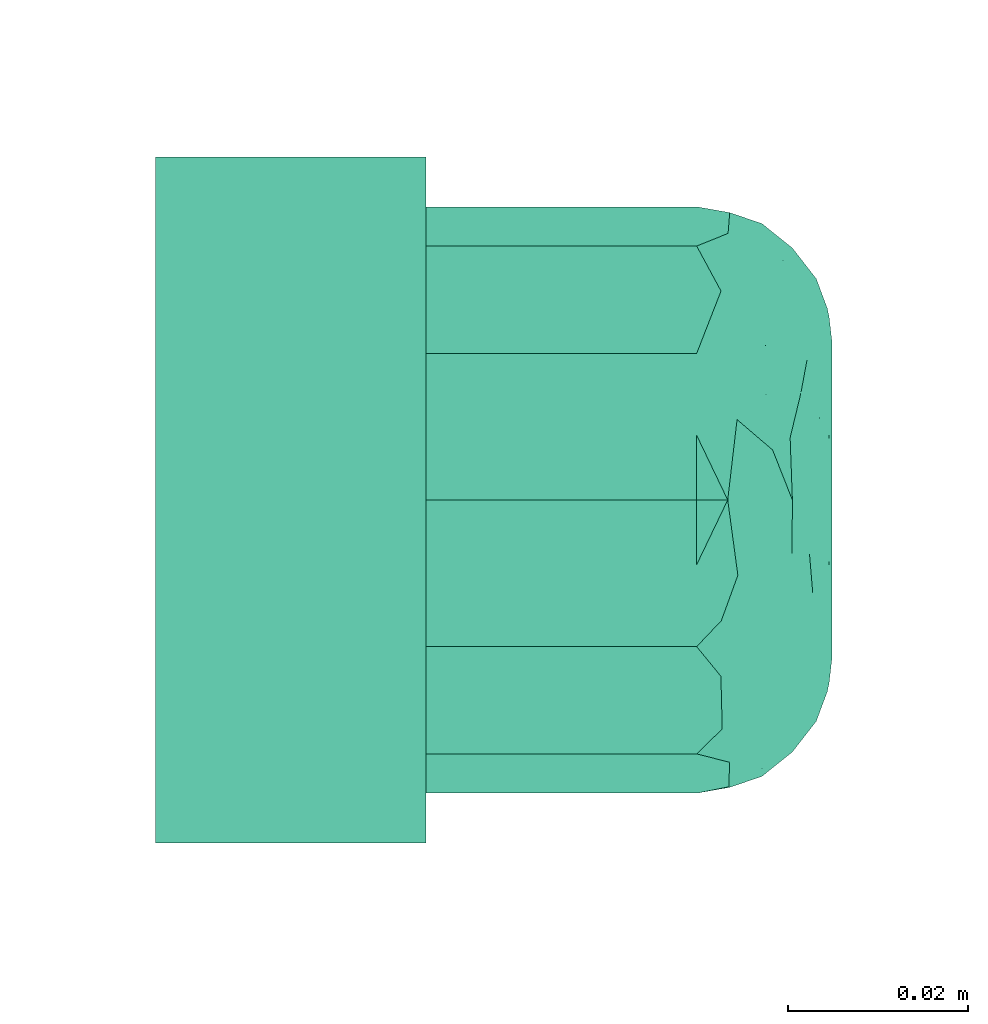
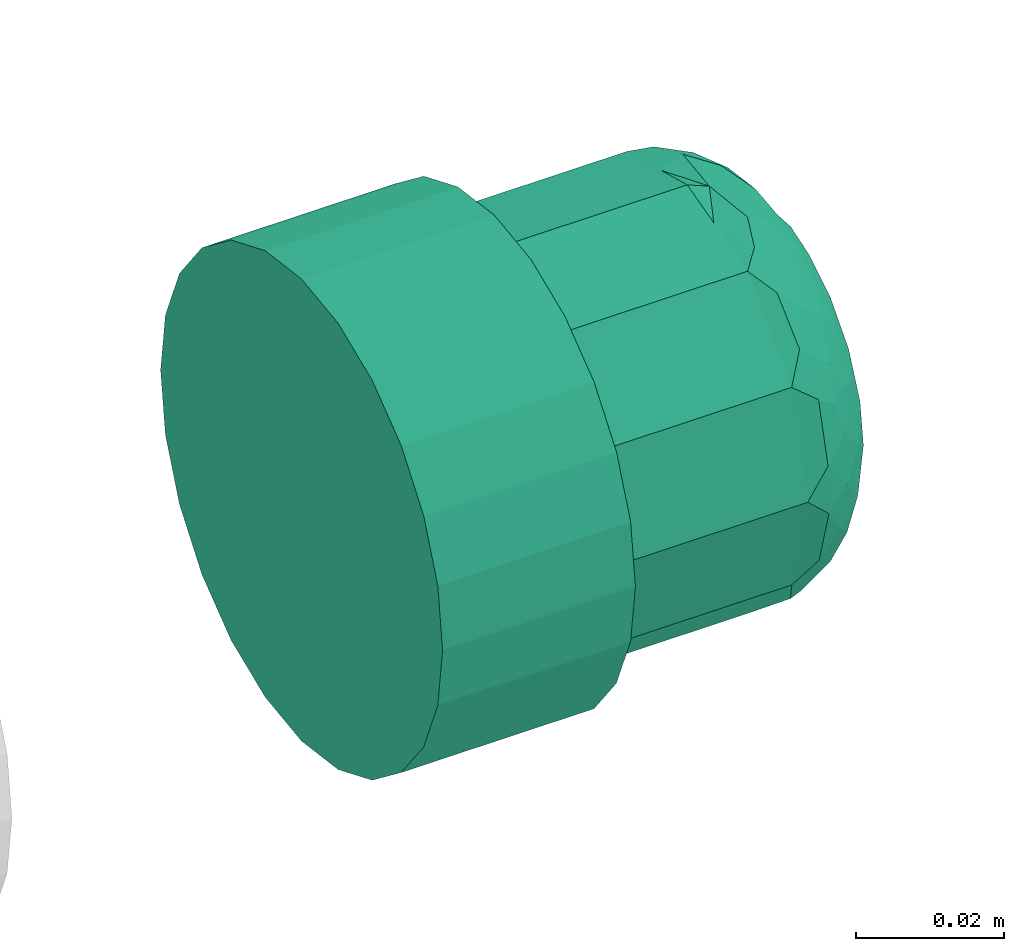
# One storey, part 41 of 146: 1 distribution control element.
"""IFC2X3 building model written with IfcOpenShell, lengths in metres."""

from ifc_helpers import new_model, entity, si_unit, converted_unit, derived_unit, direction, frame, origin, place, context, subcontext, project, spatial, faceted_brep, source, transform, mapped, material, type_object, type_shapes, element, save


model = new_model("IFC2X3")

# Units and contexts
model_context = context("Model", 3, precision=1e-05, world=origin(), true_north=direction((6.12303176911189e-17, 1.0)))
body_context = subcontext(model_context, "Body", "Model", "MODEL_VIEW")
ifc_project = project(units=[si_unit("LENGTHUNIT", "METRE"), si_unit("AREAUNIT", "SQUARE_METRE"), si_unit("VOLUMEUNIT", "CUBIC_METRE"), converted_unit("PLANEANGLEUNIT", "DEGREE", entity("IfcRatioMeasure", 0.0174532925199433), si_unit("PLANEANGLEUNIT", "RADIAN"), dimensions=[0, 0, 0, 0, 0, 0, 0]), si_unit("MASSUNIT", "GRAM", prefix="KILO"), derived_unit("MASSDENSITYUNIT", [(si_unit("MASSUNIT", "GRAM", prefix="KILO"), 1), (si_unit("LENGTHUNIT", "METRE"), -3)]), si_unit("TIMEUNIT", "SECOND"), si_unit("FREQUENCYUNIT", "HERTZ"), si_unit("THERMODYNAMICTEMPERATUREUNIT", "DEGREE_CELSIUS"), derived_unit("THERMALTRANSMITTANCEUNIT", [(si_unit("MASSUNIT", "GRAM", prefix="KILO"), 1), (si_unit("THERMODYNAMICTEMPERATUREUNIT", "KELVIN"), -1), (si_unit("TIMEUNIT", "SECOND"), -3)]), derived_unit("VOLUMETRICFLOWRATEUNIT", [(si_unit("LENGTHUNIT", "METRE"), 3), (si_unit("TIMEUNIT", "SECOND"), -1)]), si_unit("ELECTRICCURRENTUNIT", "AMPERE"), si_unit("ELECTRICVOLTAGEUNIT", "VOLT"), si_unit("POWERUNIT", "WATT"), si_unit("FORCEUNIT", "NEWTON"), si_unit("ILLUMINANCEUNIT", "LUX"), si_unit("LUMINOUSFLUXUNIT", "LUMEN"), si_unit("LUMINOUSINTENSITYUNIT", "CANDELA"), derived_unit("USERDEFINED", [(si_unit("MASSUNIT", "GRAM", prefix="KILO"), -1), (si_unit("LENGTHUNIT", "METRE"), -2), (si_unit("TIMEUNIT", "SECOND"), 3), (si_unit("LUMINOUSFLUXUNIT", "LUMEN"), 1)]), derived_unit("LINEARVELOCITYUNIT", [(si_unit("LENGTHUNIT", "METRE"), 1), (si_unit("TIMEUNIT", "SECOND"), -1)]), si_unit("PRESSUREUNIT", "PASCAL"), derived_unit("USERDEFINED", [(si_unit("LENGTHUNIT", "METRE"), -2), (si_unit("MASSUNIT", "GRAM", prefix="KILO"), 1), (si_unit("TIMEUNIT", "SECOND"), -2)])], contexts=[model_context])

# Site, building, storey
site_placement = place(None, origin())
site = spatial("IfcSite", under=ifc_project, at=site_placement, Name="Default", CompositionType="ELEMENT")
building_placement = place(site_placement, origin())
building = spatial("IfcBuilding", under=site, at=building_placement, CompositionType="ELEMENT")
storey_placement = place(building_placement, origin())
storey = spatial("IfcBuildingStorey", under=building, at=storey_placement, Name="S01", CompositionType="ELEMENT", Elevation=0.0)

# Distribution control element
ifc_material = material(Name="Red plastic")
alarm_type = type_object("IfcAlarmType", Name="Incendie_Flash", PredefinedType="NOTDEFINED", material=ifc_material)
shared_shape = source(origin(), body_context, "Body", "Brep", [
    faceted_brep([(0.00983512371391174, -0.0367051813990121, 0.0299999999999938), (0.0190000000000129, -0.0329089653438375, 0.0299999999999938), (0.0268700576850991, -0.0268700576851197, 0.0299999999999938), (0.0329089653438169, -0.0190000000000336, 0.0299999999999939), (0.0367051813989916, -0.00983512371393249, 0.029999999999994), (0.0380000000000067, 0.0, 0.0299999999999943), (0.0367051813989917, 0.0098351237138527, 0.0299999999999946), (0.0329089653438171, 0.0189999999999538, 0.0299999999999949), (0.0268700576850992, 0.02687005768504, 0.0299999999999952), (0.0190000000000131, 0.0329089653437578, 0.0299999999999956), (0.00983512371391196, 0.0367051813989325, 0.0299999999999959), (0.0, 0.0379999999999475, 0.0299999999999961), (-0.00983512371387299, 0.0367051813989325, 0.0299999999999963), (-0.0189999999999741, 0.0329089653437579, 0.0299999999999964), (-0.0268700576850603, 0.0268700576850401, 0.0299999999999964), (-0.0329089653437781, 0.0189999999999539, 0.0299999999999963), (-0.0367051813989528, 0.0098351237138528, 0.0299999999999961), (-0.0379999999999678, 0.0, 0.0299999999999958), (-0.0367051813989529, -0.00983512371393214, 0.0299999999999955), (-0.0329089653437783, -0.0190000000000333, 0.0299999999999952), (-0.0268700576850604, -0.0268700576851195, 0.0299999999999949), (-0.0189999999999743, -0.0329089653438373, 0.0299999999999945), (-0.0098351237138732, -0.036705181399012, 0.0299999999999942), (0.0, -0.038000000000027, 0.029999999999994), (0.0367051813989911, 0.00983512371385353, 0.0), (0.038000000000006, 0.0, 0.0), (0.036705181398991, -0.00983512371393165, 0.0), (0.0329089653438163, -0.0190000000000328, 0.0), (0.0268700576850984, -0.0268700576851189, 0.0), (0.0190000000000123, -0.0329089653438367, 0.0), (0.00983512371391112, -0.0367051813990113, 0.0), (0.0, -0.0380000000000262, 0.0), (-0.00983512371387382, -0.0367051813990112, 0.0), (-0.0189999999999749, -0.0329089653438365, 0.0), (-0.0268700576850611, -0.0268700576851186, 0.0), (-0.0329089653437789, -0.0190000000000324, 0.0), (-0.0367051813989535, -0.00983512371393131, 0.0), (-0.0379999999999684, 0.0, 0.0), (-0.0367051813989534, 0.00983512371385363, 0.0), (-0.0329089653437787, 0.0189999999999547, 0.0), (-0.0268700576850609, 0.0268700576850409, 0.0), (-0.0189999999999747, 0.0329089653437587, 0.0), (-0.00983512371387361, 0.0367051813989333, 0.0), (0.0, 0.0379999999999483, 0.0), (0.00983512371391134, 0.0367051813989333, 0.0), (0.0190000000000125, 0.0329089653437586, 0.0), (0.0268700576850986, 0.0268700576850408, 0.0), (0.0329089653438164, 0.0189999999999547, 0.0)], [[[0, 1, 2, 3, 4, 5, 6, 7, 8, 9, 10, 11, 12, 13, 14, 15, 16, 17, 18, 19, 20, 21, 22, 23]], [[24, 25, 26, 27, 28, 29, 30, 31, 32, 33, 34, 35, 36, 37, 38, 39, 40, 41, 42, 43, 44, 45, 46, 47]], [[36, 18, 17, 37]], [[35, 19, 18, 36]], [[21, 20, 34, 33]], [[35, 34, 20, 19]], [[22, 21, 33, 32]], [[23, 22, 32, 31]], [[30, 0, 23, 31]], [[29, 1, 0, 30]], [[29, 28, 2, 1]], [[28, 27, 3, 2]], [[26, 4, 3, 27]], [[26, 25, 5, 4]], [[24, 6, 5, 25]], [[47, 7, 6, 24]], [[9, 8, 46, 45]], [[47, 46, 8, 7]], [[10, 9, 45, 44]], [[11, 10, 44, 43]], [[43, 42, 12, 11]], [[15, 39, 38, 16]], [[40, 39, 15, 14]], [[16, 38, 37, 17]], [[12, 42, 41, 13]], [[41, 40, 14, 13]]]),
    faceted_brep([(0.0, 0.0310753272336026, 0.0634394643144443), (-0.00716197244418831, 0.0305809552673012, 0.0600000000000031), (-0.00833767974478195, 0.0306762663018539, 0.0645629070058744), (-0.0318494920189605, -0.00354130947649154, 0.063663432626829), (-0.0306323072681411, -0.000670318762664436, 0.0672353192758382), (-0.0317848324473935, 0.0042753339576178, 0.0635614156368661), (-0.0227868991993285, -0.00668807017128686, 0.0736367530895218), (-0.0182577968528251, -0.00974892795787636, 0.0746552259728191), (-0.0202727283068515, -0.00358393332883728, 0.074678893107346), (-0.016385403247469, 0.0254148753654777, 0.0679194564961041), (-0.021187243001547, 0.0212245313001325, 0.0683071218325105), (-0.0167767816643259, 0.0227822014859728, 0.0704169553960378), (-0.0200936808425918, -0.0121748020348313, 0.0737502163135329), (-0.00857849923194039, 0.0288841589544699, 0.0680903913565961), (-0.00590296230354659, 0.0275227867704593, 0.0705643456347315), (0.0, 0.0281066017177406, 0.070606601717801), (-0.0253054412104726, 0.0115121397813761, 0.0709036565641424), (-0.0298000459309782, 0.0070831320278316, 0.0672523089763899), (-0.0279333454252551, 0.00316972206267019, 0.0706005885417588), (-0.0142535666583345, 0.0145433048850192, 0.0747241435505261), (-0.00714839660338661, 0.0193281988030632, 0.0746745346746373), (-0.0140812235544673, 0.0176795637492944, 0.0741056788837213), (-0.0187772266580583, 0.0101036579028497, 0.0745046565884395), (-0.0207236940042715, 0.0135056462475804, 0.0731392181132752), (-0.0212676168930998, 0.0232237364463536, 0.0654097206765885), (-0.0253709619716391, 0.0198772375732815, 0.0628318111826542), (-0.0260097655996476, 0.0163827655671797, 0.0670513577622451), (-0.0273833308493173, -0.00573701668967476, 0.0707338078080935), (-0.0245225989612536, -8.80194780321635e-05, 0.0732544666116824), (-0.0290659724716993, 0.0135031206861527, 0.0636489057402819), (-0.0303229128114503, 0.00812499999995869, 0.0600000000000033), (-0.0265039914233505, -0.0119036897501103, 0.0695653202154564), (-0.0207033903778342, -0.0187904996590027, 0.0707520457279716), (-0.0231315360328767, -0.0125689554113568, 0.0721287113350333), (-0.00891676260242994, -0.0305418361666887, 0.064475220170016), (-0.0162499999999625, -0.0281458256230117, 0.0600000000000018), (-0.00812499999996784, -0.0303229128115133, 0.0600000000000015), (-0.00716197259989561, -0.0305809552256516, 0.0600000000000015), (-0.0104492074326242, 0.0229229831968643, 0.0728774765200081), (-0.0115458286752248, 0.0257177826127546, 0.0705219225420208), (0.0, -0.0228033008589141, 0.0728033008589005), (-0.00912165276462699, -0.0220231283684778, 0.0735954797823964), (-0.0118384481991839, -0.0243524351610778, 0.0715443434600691), (-0.0295480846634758, -0.0125213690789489, 0.0634761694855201), (-0.0297777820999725, -0.00830917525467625, 0.066710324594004), (-0.0212284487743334, -0.0212045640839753, 0.0682845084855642), (-0.0258588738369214, -0.0163601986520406, 0.0673075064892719), (-0.0171631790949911, -0.0251277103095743, 0.0676038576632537), (-0.0237895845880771, 0.00671046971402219, 0.0731492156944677), (-0.0212013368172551, 0.00276607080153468, 0.0744892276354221), (-0.0149371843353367, 0.00618718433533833, 0.0750000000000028), (-0.0207033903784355, 0.0187905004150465, 0.0707520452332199), (-0.0303229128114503, -0.00812500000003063, 0.0600000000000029), (-0.0155298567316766, -0.0142338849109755, 0.0745699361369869), (0.0, 0.0296506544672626, 0.0668789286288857), (0.0, -0.0281066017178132, 0.0706066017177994), (0.0, -0.0254549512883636, 0.0717049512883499), (-0.00689181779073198, -0.0275012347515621, 0.0703557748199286), (-0.0140812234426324, -0.0176795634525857, 0.0741056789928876), (-0.00714839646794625, -0.0193281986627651, 0.0746745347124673), (-0.00618718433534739, -0.0149371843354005, 0.0750000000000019), (0.0, 0.0228033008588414, 0.0728033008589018), (-0.0062193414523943, 0.024999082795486, 0.0725201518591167), (-0.0162499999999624, 0.0281458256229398, 0.0600000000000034), (-0.0221979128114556, 0.0221979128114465, 0.0600000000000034), (-0.0195368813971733, 0.0256689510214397, 0.0626830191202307), (-0.0150650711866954, 0.0277296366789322, 0.0652326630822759), (0.0, 0.0324999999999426, 0.0600000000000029), (-0.0133801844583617, 0.0293432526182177, 0.0627277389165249), (-0.00812499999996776, 0.0303229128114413, 0.0600000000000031), (-0.0281458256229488, 0.0162499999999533, 0.0600000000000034), (-0.0288189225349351, 0.0118325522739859, 0.0662114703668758), (-0.026864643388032, 0.0126649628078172, 0.0687264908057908), (-0.0324999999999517, 0.0, 0.0600000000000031), (-0.0281458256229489, -0.0162500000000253, 0.0600000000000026), (-0.0123743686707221, -0.0123743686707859, 0.0750000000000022), (-0.0149371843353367, -0.00618718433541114, 0.0750000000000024), (-0.0261755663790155, -0.0186043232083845, 0.0633828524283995), (-0.0231574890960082, -0.022453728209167, 0.0626954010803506), (-0.0215965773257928, -0.0229734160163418, 0.0653044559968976), (-0.0116849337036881, -0.028048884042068, 0.0676788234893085), (-0.0161946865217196, -0.027510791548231, 0.0641184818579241), (-0.005544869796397, -0.029399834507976, 0.0684136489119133), (0.0, -0.0201516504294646, 0.0739016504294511), (-0.0221979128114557, -0.0221979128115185, 0.0600000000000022), (-0.0160989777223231, 0.0197228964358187, 0.0727142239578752), (0.0, 0.0201516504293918, 0.0739016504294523), (0.0, 0.0174999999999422, 0.0750000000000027), (-0.00618718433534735, 0.0149371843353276, 0.0750000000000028), (-0.018783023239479, -0.0171862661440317, 0.072714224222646), (-0.0123743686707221, 0.0123743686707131, 0.075000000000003), (-0.0174999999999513, 0.0, 0.0750000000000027), (0.0, -0.0310753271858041, 0.0634394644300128), (0.0, -0.0296506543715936, 0.0668789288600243), (0.0, -0.0325000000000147, 0.0600000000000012), (-0.0154632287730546, -0.0211512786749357, 0.0722185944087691), (0.0, -0.0175000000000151, 0.0750000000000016), (0.0, 0.025454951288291, 0.0717049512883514), (0.0071619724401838, -0.0305809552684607, 0.060000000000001), (0.0083376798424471, -0.030676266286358, 0.0645629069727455), (0.0207033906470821, -0.0187905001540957, 0.0707520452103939), (0.0253054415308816, -0.0115121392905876, 0.0709036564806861), (0.020723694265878, -0.0135056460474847, 0.0731392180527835), (0.0115458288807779, -0.0257177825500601, 0.0705219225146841), (0.00590296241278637, -0.0275227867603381, 0.0705643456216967), (0.00857849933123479, -0.0288841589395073, 0.0680903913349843), (0.0163854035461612, -0.0254148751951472, 0.0679194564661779), (0.0211872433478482, -0.0212245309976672, 0.0683071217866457), (0.016776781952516, -0.0227822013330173, 0.0704169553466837), (0.0290659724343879, -0.0135031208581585, 0.0636489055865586), (0.0303229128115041, -0.0081250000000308, 0.0600000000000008), (0.0317848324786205, -0.0042753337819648, 0.0635614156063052), (0.0265039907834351, 0.0119036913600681, 0.0695653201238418), (0.0207033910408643, 0.0187904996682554, 0.0707520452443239), (0.0231315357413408, 0.0125689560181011, 0.0721287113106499), (0.0142535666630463, -0.0145433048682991, 0.074724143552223), (0.00714839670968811, -0.0193281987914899, 0.074674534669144), (0.0140812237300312, -0.0176795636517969, 0.0741056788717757), (0.0187772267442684, -0.01010365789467, 0.0745046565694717), (0.023789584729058, -0.0067104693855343, 0.0731492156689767), (0.0279333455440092, -0.00316972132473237, 0.070600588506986), (0.024522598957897, 8.80198207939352e-05, 0.0732544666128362), (0.027383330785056, 0.00573701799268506, 0.070733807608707), (0.0227868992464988, 0.00668807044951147, 0.0736367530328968), (0.0104492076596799, -0.0229229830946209, 0.0728774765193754), (0.0297777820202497, 0.00830917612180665, 0.0667103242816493), (0.0318494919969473, 0.0035413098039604, 0.0636634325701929), (0.0295480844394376, 0.0125213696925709, 0.0634761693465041), (0.0303229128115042, 0.00812499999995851, 0.0600000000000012), (0.0200936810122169, 0.0121748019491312, 0.073750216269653), (0.0182577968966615, 0.00974892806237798, 0.074655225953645), (0.0118384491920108, 0.0243524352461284, 0.0715443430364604), (0.0212284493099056, 0.0212045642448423, 0.0682845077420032), (0.0171631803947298, 0.0251277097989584, 0.0676038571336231), (0.020272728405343, 0.00358393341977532, 0.0746788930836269), (0.00912165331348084, 0.0220231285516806, 0.073595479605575), (0.0306323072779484, 0.00067031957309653, 0.0672353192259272), (0.02585887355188, 0.0163601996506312, 0.0673075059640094), (0.00891676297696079, 0.030541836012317, 0.0644752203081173), (0.0162500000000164, 0.0281458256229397, 0.0600000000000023), (0.0081250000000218, 0.0303229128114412, 0.0600000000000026), (0.00716197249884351, 0.0305809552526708, 0.0600000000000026), (0.0212676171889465, -0.0232237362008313, 0.0654097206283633), (0.0253709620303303, -0.0198772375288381, 0.0628318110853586), (0.0260097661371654, -0.0163827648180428, 0.0670513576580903), (0.0298000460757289, -0.00708313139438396, 0.0672523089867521), (0.0212013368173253, -0.00276607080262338, 0.0744892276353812), (0.0149371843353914, -0.00618718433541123, 0.0750000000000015), (0.0155298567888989, 0.0142338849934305, 0.0745699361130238), (0.00689181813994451, 0.0275012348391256, 0.0703557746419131), (0.014081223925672, 0.0176795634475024, 0.0741056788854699), (0.00714839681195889, 0.0193281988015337, 0.0746745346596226), (0.00618718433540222, 0.0149371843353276, 0.0750000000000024), (0.00621934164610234, -0.0249990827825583, 0.0725201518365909), (0.0162500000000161, -0.0281458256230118, 0.0600000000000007), (0.0221979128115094, -0.0221979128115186, 0.0600000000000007), (0.0195368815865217, -0.0256689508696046, 0.0626830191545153), (0.0150650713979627, -0.0277296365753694, 0.0652326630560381), (0.0133801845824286, -0.0293432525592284, 0.0627277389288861), (0.00812500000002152, -0.0303229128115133, 0.060000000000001), (0.0281458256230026, -0.0162500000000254, 0.0600000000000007), (0.0288189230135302, -0.0118325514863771, 0.0662114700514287), (0.0268646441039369, -0.0126649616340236, 0.0687264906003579), (0.0325000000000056, 0.0, 0.060000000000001), (0.0281458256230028, 0.0162499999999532, 0.0600000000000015), (0.0123743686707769, 0.012374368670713, 0.0750000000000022), (0.0149371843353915, 0.00618718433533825, 0.0750000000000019), (0.0261755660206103, 0.0186043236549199, 0.0633828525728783), (0.0231574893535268, 0.0224537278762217, 0.0626954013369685), (0.0215965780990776, 0.0229734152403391, 0.06530445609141), (0.0116849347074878, 0.0280488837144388, 0.0676788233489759), (0.0161946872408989, 0.027510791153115, 0.0641184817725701), (0.00554487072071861, 0.0293998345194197, 0.0684136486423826), (0.0221979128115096, 0.0221979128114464, 0.0600000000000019), (0.0160989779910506, -0.0197228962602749, 0.0727142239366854), (0.00618718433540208, -0.0149371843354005, 0.0750000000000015), (0.0187830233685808, 0.0171862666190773, 0.072714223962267), (0.0123743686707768, -0.012374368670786, 0.0750000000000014), (0.017500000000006, 0.0, 0.0750000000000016), (0.0154632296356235, 0.021151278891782, 0.0722185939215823), (0.0, 0.0, 0.0750000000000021), (0.0, 0.0, 0.0300000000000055), (0.0, -0.0325000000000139, 0.0300000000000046), (-0.0089852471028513, -0.0300924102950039, 0.0300000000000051), (-0.0162499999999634, -0.028145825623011, 0.0300000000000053), (-0.0221979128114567, -0.0221979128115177, 0.0300000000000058), (-0.0281458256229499, -0.0162500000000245, 0.030000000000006), (-0.0303229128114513, -0.00812500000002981, 0.0300000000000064), (-0.0324999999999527, 0.0, 0.0300000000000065), (-0.0303229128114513, 0.00812499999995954, 0.0300000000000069), (-0.0281458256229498, 0.0162499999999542, 0.0300000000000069), (-0.0221979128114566, 0.0221979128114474, 0.030000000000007), (-0.0162499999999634, 0.0281458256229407, 0.0300000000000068), (-0.00812499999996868, 0.0303229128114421, 0.0300000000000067), (0.0, 0.0324999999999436, 0.0300000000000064), (0.00898524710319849, 0.0300924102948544, 0.0300000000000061), (0.00812500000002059, -0.0303229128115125, 0.0300000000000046), (0.0162500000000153, -0.0281458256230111, 0.0300000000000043), (0.0221979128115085, -0.0221979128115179, 0.0300000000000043), (0.0281458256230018, -0.0162500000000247, 0.0300000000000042), (0.0303229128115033, -0.00812500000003, 0.0300000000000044), (0.0325000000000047, 0.0, 0.0300000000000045), (0.0162500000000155, 0.0281458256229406, 0.0300000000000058), (0.0221979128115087, 0.0221979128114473, 0.0300000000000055), (0.0281458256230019, 0.016249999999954, 0.0300000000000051), (0.0303229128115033, 0.00812499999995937, 0.0300000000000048)], [[[0, 1, 2]], [[3, 4, 5]], [[6, 7, 8]], [[9, 10, 11]], [[12, 7, 6]], [[13, 14, 15]], [[16, 17, 18]], [[19, 20, 21]], [[22, 19, 23]], [[24, 25, 26]], [[27, 6, 28]], [[17, 5, 4]], [[29, 30, 5]], [[31, 32, 33]], [[34, 35, 36, 37]], [[38, 39, 11]], [[40, 41, 42]], [[43, 44, 3]], [[27, 33, 6]], [[45, 32, 46]], [[45, 47, 42]], [[48, 18, 28]], [[14, 13, 39]], [[49, 50, 22]], [[51, 16, 23]], [[43, 3, 52]], [[20, 38, 21]], [[53, 7, 12]], [[15, 54, 13]], [[55, 56, 57]], [[58, 59, 60]], [[61, 62, 38]], [[63, 64, 65]], [[65, 25, 24]], [[66, 13, 2]], [[54, 2, 13]], [[13, 66, 9]], [[66, 65, 24]], [[54, 0, 2]], [[0, 67, 1]], [[68, 1, 69, 63]], [[68, 66, 2]], [[9, 66, 24]], [[26, 25, 29]], [[25, 64, 70]], [[26, 51, 10]], [[29, 25, 70]], [[26, 71, 72]], [[30, 73, 5]], [[71, 26, 29]], [[29, 70, 30]], [[3, 5, 73]], [[5, 17, 71]], [[74, 43, 52]], [[3, 44, 4]], [[3, 73, 52]], [[27, 4, 44]], [[18, 17, 4]], [[44, 46, 31]], [[7, 75, 76]], [[27, 18, 4]], [[16, 18, 48]], [[23, 16, 48]], [[51, 26, 72]], [[77, 43, 74]], [[44, 43, 46]], [[77, 78, 79]], [[80, 81, 34]], [[77, 46, 43]], [[45, 46, 79]], [[55, 57, 82]], [[59, 41, 83]], [[47, 81, 80]], [[81, 78, 35]], [[46, 77, 79]], [[74, 84, 35, 78]], [[10, 9, 24]], [[13, 9, 39]], [[26, 10, 24]], [[11, 10, 51]], [[38, 85, 21]], [[9, 11, 39]], [[85, 11, 51]], [[38, 20, 86]], [[86, 20, 87]], [[86, 61, 38]], [[31, 33, 27]], [[19, 88, 20]], [[88, 87, 20]], [[89, 33, 32]], [[22, 23, 48]], [[23, 21, 85]], [[22, 48, 49]], [[19, 22, 90]], [[28, 49, 48]], [[6, 8, 28]], [[50, 49, 91]], [[50, 90, 22]], [[27, 28, 18]], [[8, 7, 76]], [[49, 8, 91]], [[6, 33, 12]], [[91, 8, 76]], [[8, 49, 28]], [[89, 12, 33]], [[53, 12, 58]], [[58, 60, 53]], [[75, 7, 53]], [[92, 93, 34]], [[75, 53, 60]], [[93, 82, 34]], [[37, 94, 92]], [[37, 92, 34]], [[81, 79, 78]], [[35, 34, 81]], [[44, 31, 27]], [[32, 31, 46]], [[65, 66, 68]], [[25, 65, 64]], [[32, 95, 89]], [[56, 40, 42]], [[57, 80, 82]], [[56, 42, 57]], [[42, 80, 57]], [[34, 82, 80]], [[55, 82, 93]], [[41, 40, 83]], [[83, 96, 59]], [[58, 89, 95]], [[60, 59, 96]], [[41, 59, 58]], [[62, 61, 97]], [[97, 15, 14]], [[62, 14, 39]], [[14, 62, 97]], [[39, 38, 62]], [[1, 68, 2]], [[65, 68, 63]], [[5, 71, 29]], [[72, 17, 16]], [[17, 72, 71]], [[51, 72, 16]], [[47, 45, 79]], [[42, 32, 45]], [[81, 47, 79]], [[42, 47, 80]], [[74, 78, 77]], [[11, 85, 38]], [[23, 85, 51]], [[32, 42, 95]], [[12, 89, 58]], [[42, 41, 95]], [[58, 95, 41]], [[88, 19, 90]], [[23, 19, 21]], [[92, 98, 99]], [[100, 101, 102]], [[103, 104, 105]], [[106, 107, 108]], [[109, 110, 111]], [[55, 105, 104]], [[112, 113, 114]], [[115, 116, 117]], [[118, 115, 102]], [[119, 120, 121]], [[122, 123, 121]], [[124, 103, 108]], [[125, 126, 127]], [[127, 126, 128]], [[129, 130, 123]], [[131, 132, 133]], [[123, 130, 134]], [[61, 135, 131]], [[126, 136, 111]], [[132, 113, 137]], [[138, 139, 140, 141]], [[142, 143, 144]], [[145, 111, 136]], [[146, 147, 118]], [[122, 114, 123]], [[101, 145, 120]], [[116, 124, 117]], [[148, 130, 129]], [[55, 93, 105]], [[15, 97, 149]], [[150, 151, 152]], [[40, 153, 124]], [[154, 155, 156]], [[156, 143, 142]], [[157, 105, 99]], [[93, 99, 105]], [[105, 157, 106]], [[157, 156, 142]], [[93, 92, 99]], [[92, 94, 98]], [[158, 98, 159, 154]], [[158, 157, 99]], [[106, 157, 142]], [[144, 143, 109]], [[143, 155, 160]], [[144, 100, 107]], [[109, 143, 160]], [[144, 161, 162]], [[110, 163, 111]], [[161, 144, 109]], [[109, 160, 110]], [[126, 111, 163]], [[111, 145, 161]], [[164, 127, 128]], [[126, 125, 136]], [[126, 163, 128]], [[122, 136, 125]], [[120, 145, 136]], [[125, 137, 112]], [[130, 165, 166]], [[122, 120, 136]], [[101, 120, 119]], [[102, 101, 119]], [[100, 144, 162]], [[167, 127, 164]], [[125, 127, 137]], [[167, 168, 169]], [[170, 171, 138]], [[167, 137, 127]], [[132, 137, 169]], [[15, 149, 172]], [[151, 135, 86]], [[133, 171, 170]], [[171, 168, 139]], [[137, 167, 169]], [[164, 173, 139, 168]], [[107, 106, 142]], [[105, 106, 103]], [[144, 107, 142]], [[108, 107, 100]], [[124, 174, 117]], [[106, 108, 103]], [[174, 108, 100]], [[124, 116, 83]], [[83, 116, 96]], [[83, 40, 124]], [[112, 114, 122]], [[115, 175, 116]], [[175, 96, 116]], [[176, 114, 113]], [[118, 102, 119]], [[102, 117, 174]], [[118, 119, 146]], [[115, 118, 177]], [[121, 146, 119]], [[123, 134, 121]], [[147, 146, 178]], [[147, 177, 118]], [[122, 121, 120]], [[134, 130, 166]], [[146, 134, 178]], [[123, 114, 129]], [[178, 134, 166]], [[134, 146, 121]], [[176, 129, 114]], [[148, 129, 150]], [[150, 152, 148]], [[165, 130, 148]], [[0, 54, 138]], [[165, 148, 152]], [[54, 172, 138]], [[141, 67, 0]], [[141, 0, 138]], [[171, 169, 168]], [[139, 138, 171]], [[125, 112, 122]], [[113, 112, 137]], [[156, 157, 158]], [[143, 156, 155]], [[113, 179, 176]], [[97, 61, 131]], [[149, 170, 172]], [[97, 131, 149]], [[131, 170, 149]], [[138, 172, 170]], [[15, 172, 54]], [[135, 61, 86]], [[86, 87, 151]], [[150, 176, 179]], [[152, 151, 87]], [[135, 151, 150]], [[153, 40, 56]], [[104, 103, 153]], [[56, 55, 104]], [[104, 153, 56]], [[103, 124, 153]], [[98, 158, 99]], [[156, 158, 154]], [[111, 161, 109]], [[162, 145, 101]], [[145, 162, 161]], [[100, 162, 101]], [[133, 132, 169]], [[131, 113, 132]], [[171, 133, 169]], [[131, 133, 170]], [[164, 168, 167]], [[108, 174, 124]], [[102, 174, 100]], [[113, 131, 179]], [[129, 176, 150]], [[131, 135, 179]], [[150, 179, 135]], [[175, 115, 177]], [[102, 115, 117]], [[180, 91, 76]], [[180, 76, 75]], [[180, 75, 60]], [[180, 60, 96]], [[180, 96, 175]], [[180, 50, 91]], [[180, 90, 50]], [[180, 88, 90]], [[180, 87, 88]], [[180, 175, 177]], [[180, 177, 147]], [[180, 147, 178]], [[180, 178, 166]], [[180, 152, 87]], [[180, 165, 152]], [[180, 166, 165]], [[181, 182, 183]], [[181, 183, 184]], [[181, 184, 185]], [[181, 185, 186]], [[181, 186, 187]], [[181, 187, 188]], [[181, 188, 189]], [[181, 189, 190]], [[181, 190, 191]], [[181, 191, 192]], [[181, 192, 193]], [[181, 193, 194]], [[181, 194, 195]], [[181, 196, 182]], [[181, 197, 196]], [[181, 198, 197]], [[181, 199, 198]], [[181, 200, 199]], [[181, 201, 200]], [[181, 195, 202]], [[181, 202, 203]], [[181, 203, 204]], [[181, 204, 205]], [[181, 205, 201]], [[63, 192, 191, 190, 70, 64]], [[192, 63, 69, 1, 67, 194, 193]], [[183, 182, 94, 37, 36, 35, 184]], [[30, 70, 190, 189, 188, 73]], [[186, 185, 184, 35, 84, 74]], [[73, 188, 187, 186, 74, 52]], [[197, 154, 159, 98, 94, 182, 196]], [[155, 154, 197, 198, 199, 160]], [[195, 194, 67, 141, 140, 139, 202]], [[110, 160, 199, 200, 201, 163]], [[164, 204, 203, 202, 139, 173]], [[128, 163, 201, 205, 204, 164]]]),
])
type_shapes(alarm_type, [shared_shape])
distribution_control_element_placement = place(building_placement, frame((46.289743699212, -189.119107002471, 2.30000000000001), z_axis=(1.0, 0.0, 0.0), x_axis=(0.0, 1.0, 0.0)))
element("IfcDistributionControlElement", 1, at=distribution_control_element_placement, inside=storey, type_object=alarm_type, material=ifc_material, Name="INT_Flash:Incendie_Flash", ObjectType="INT_Flash:Incendie_Flash", context=body_context, shape_type="MappedRepresentation", body=[
    mapped(shared_shape, transform((0.0, 0.0, 0.0), scale=1.0)),
])

save(model, "model.ifc")
